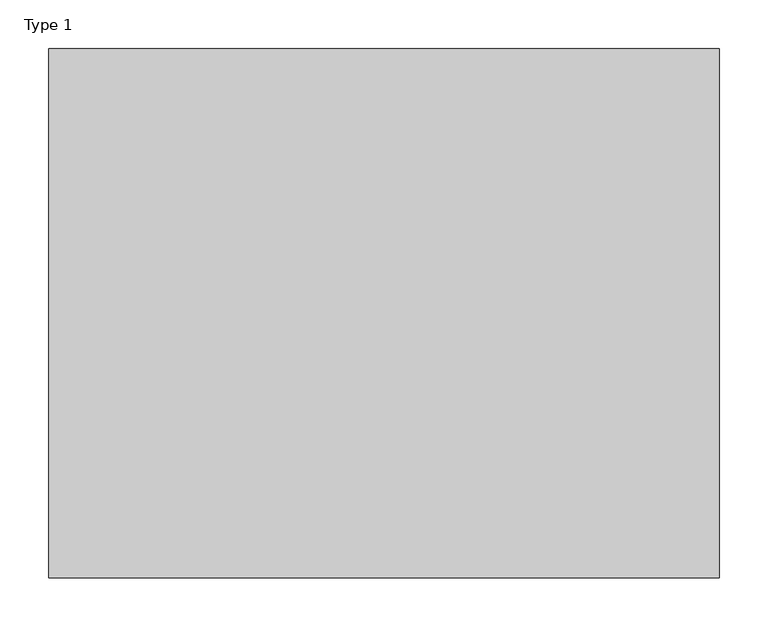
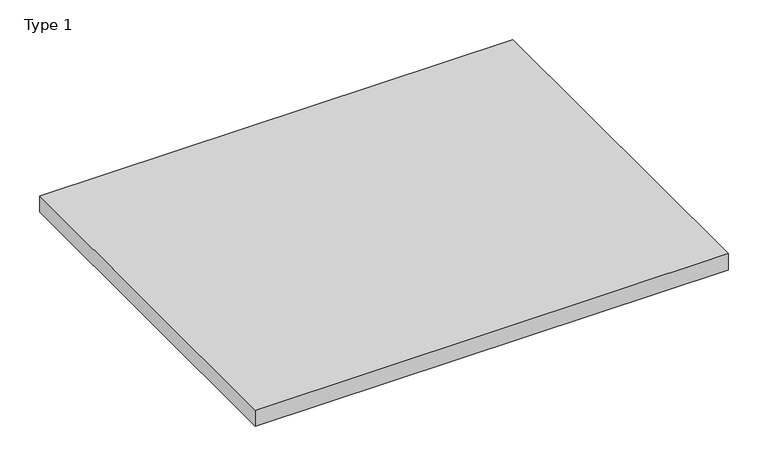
"""IFC4 building model written with IfcOpenShell, lengths in millimetres: proxy geometry, BIMHealth-Printer_Shelf-LOD2A-v1 : Type 1."""

from ifc_helpers import new_model, si_unit, frame, origin, place, context, project, spatial, polyline, outline, extrude, source, transform, mapped, element, save


def type_1_d860b051(model_context):
    return source(origin(), model_context, "Body", "SweptSolid", [
        extrude(outline(polyline([(470.0, 50.0), (-220.0, 50.0), (-220.0, 595.0), (470.0, 595.0), (470.0, 50.0)])), frame((0.0, 0.0, 900.0), z_axis=(0.0, 0.0, 1.0), x_axis=(1.0, 0.0, 0.0)), (0.0, 0.0, 1.0), 25.0),
    ])


if __name__ == "__main__":
    model = new_model("IFC4")
    model_context = context("Model", 3, world=origin())
    ifc_project = project(units=[si_unit("LENGTHUNIT", "METRE", prefix="MILLI")], contexts=[model_context])
    site = spatial("IfcSite", under=ifc_project)
    building = spatial("IfcBuilding", under=site)
    placement = place(None, origin())
    type_1_shape = type_1_d860b051(model_context)
    element("IfcBuildingElementProxy", 1, Name="BIMHealth-Printer_Shelf-LOD2A-v1 : Type 1", ObjectType="BIMHealth-Printer_Shelf-LOD2A-v1 : Type 1", at=placement, inside=building, context=model_context, shape_type="MappedRepresentation", body=[
        mapped(type_1_shape, transform((0.0, 0.0, 0.0), x_axis=(1.0, 0.0, 0.0), y_axis=(0.0, 1.0, 0.0), z_axis=(0.0, 0.0, 1.0))),
    ])
    save(model, "model.ifc")
